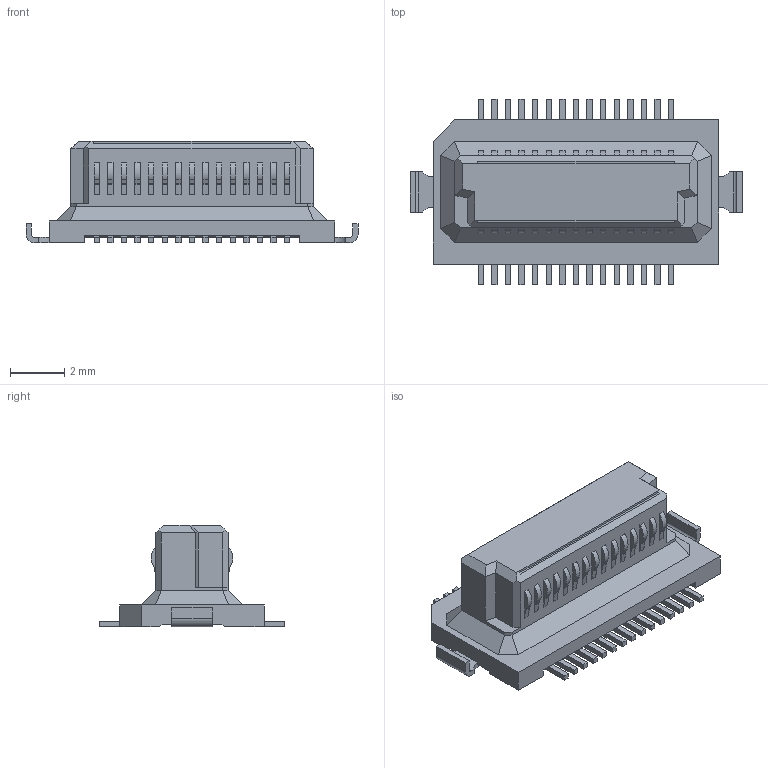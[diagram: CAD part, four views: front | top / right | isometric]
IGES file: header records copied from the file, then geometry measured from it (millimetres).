
Start section: Elysium IGES Interface
Global section: file name: 89HG:\森上\DY-3D(RE)\DY10-□□□S-1-□\修正　P3A288_DY10-030S-1\修正　P3A288_DY10-030S-1.igs; native system: Creo Elements/Direct Modeling 19.0F  14-Feb-2017; preprocessor: Creo Element/Direct IGES_3D V2.2; author: Unknown; organization: Unknown; date: 20200116.152627; units: millimetre
Bounding box: 12.2 x 6.8 x 3.73 mm (x, y, z)
Volume: 104.8 mm3; surface area: 239.7 mm2
Topology: 1 solids, 1 shells, 580 faces, 1531 edges, 1014 vertices
Faces by surface type: bspline 580
